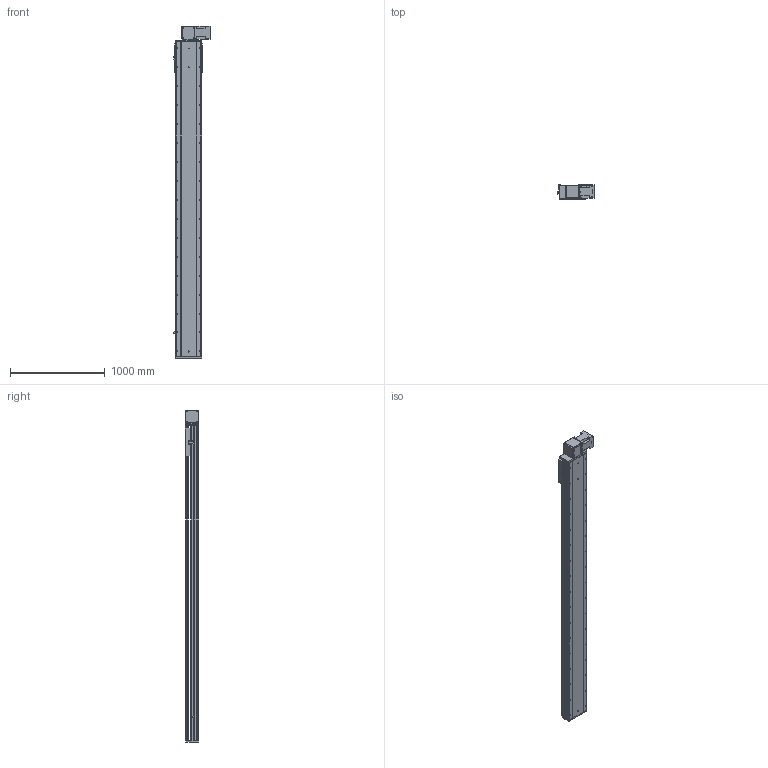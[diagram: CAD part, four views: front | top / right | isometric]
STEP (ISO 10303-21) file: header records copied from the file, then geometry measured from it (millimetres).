
FILE_DESCRIPTION (( 'STEP AP214' ), '1' );
FILE_NAME ('RTB28S-XX-2900-BL-M100-XX-C4.STEP', '2025-12-22T02:35:56', ( '' ), ( '' ), 'SwSTEP 2.0', 'SolidWorks 2018', '' );
FILE_SCHEMA (( 'AUTOMOTIVE_DESIGN' ));
Length unit declared in the file: millimetre
Products named in the file (4): RTB28S-XX-2900-BL-M100-XX-C4; RTB28S-GY-004^RTB28S-XX-XX-BL-M100-XX-C4; RTB28S-GY-011^RTB28S-XX-XX-BL-M100-XX-C4; RTB28S-GY-008^RTB28S-XX-XX-BL-M100-XX-C4
Assembly tree (3 placements, depth 2):
  RTB28S-XX-2900-BL-M100-XX-C4
    RTB28S-GY-011^RTB28S-XX-XX-BL-M100-XX-C4
    RTB28S-GY-004^RTB28S-XX-XX-BL-M100-XX-C4
    RTB28S-GY-008^RTB28S-XX-XX-BL-M100-XX-C4
Bounding box: 380.7 x 145 x 3507 mm (x, y, z)
Volume: 59541559 mm3; surface area: 5560120.8 mm2
Topology: 3 solids, 4 shells, 878 faces, 2358 edges, 1508 vertices
Faces by surface type: cylinder 431, plane 363, cone 80, torus 4
Entity records: 33887 total; most frequent: CARTESIAN_POINT 6352, DIRECTION 5016, ORIENTED_EDGE 4652, EDGE_CURVE 2326, AXIS2_PLACEMENT_3D 1848, VERTEX_POINT 1508, VECTOR 1320, LINE 1320
